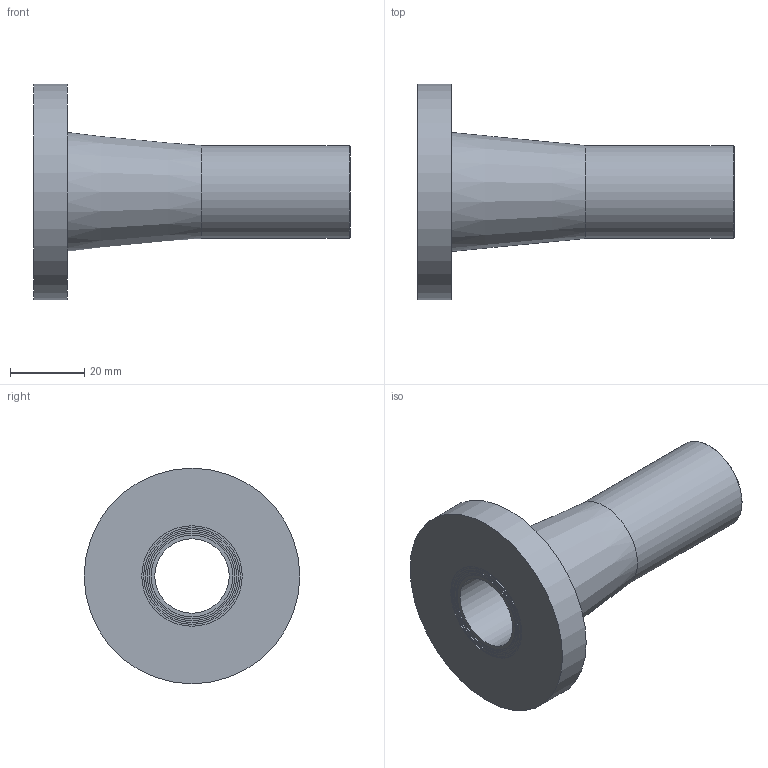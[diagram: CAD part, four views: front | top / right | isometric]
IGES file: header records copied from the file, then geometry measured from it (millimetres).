
Global section: file name: 490207025.ipt; native system: Autodesk Inventor 2015; preprocessor: unknown; author: Кирилл,,11,0; organization: 20170718.095537; date: 20190331.185811; units: millimetre
Bounding box: 85 x 58 x 58 mm (x, y, z)
Volume: 39760.1 mm3; surface area: 17807 mm2
Topology: 1 solids, 1 shells, 20 faces, 33 edges, 22 vertices
Faces by surface type: plane 9, cylinder 5, revolution 4, cone 2
Full cylindrical faces by diameter (mm): 22 x1, 24 x1, 25 x1, 26 x1, 58 x1
